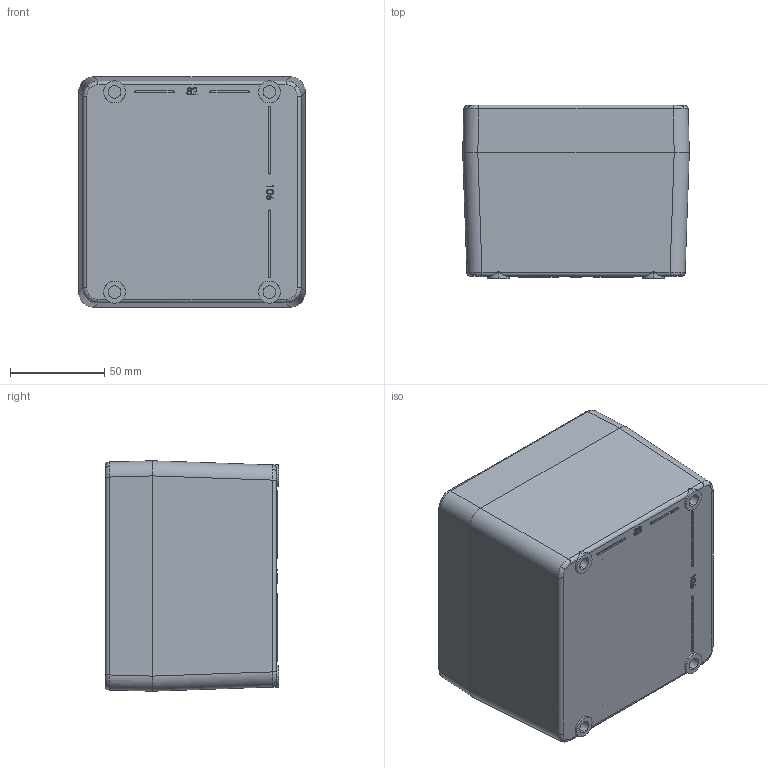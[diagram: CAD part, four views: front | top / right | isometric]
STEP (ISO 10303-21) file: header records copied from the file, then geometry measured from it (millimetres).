
FILE_DESCRIPTION (( 'STEP AP203' ), '1' );
FILE_NAME ('BPG6.STEP', '2014-06-13T09:05:14', ( '' ), ( '' ), 'SwSTEP 2.0', 'SolidWorks 2014', '' );
FILE_SCHEMA (( 'CONFIG_CONTROL_DESIGN' ));
Length unit declared in the file: millimetre
Products named in the file (3): BPG6 Base; BPG6 Lid; BPG6
Assembly tree (2 placements, depth 2):
  BPG6
    BPG6 Base
    BPG6 Lid
Bounding box: 120 x 91.7 x 122 mm (x, y, z)
Volume: 366477.3 mm3; surface area: 148337.7 mm2
Topology: 2 solids, 2 shells, 412 faces, 1122 edges, 718 vertices
Faces by surface type: plane 133, cylinder 114, bspline 85, cone 68, sphere 8, torus 4
Entity records: 16749 total; most frequent: CARTESIAN_POINT 6774, ORIENTED_EDGE 2188, DIRECTION 1772, EDGE_CURVE 1094, VERTEX_POINT 718, AXIS2_PLACEMENT_3D 616, VECTOR 540, LINE 540
